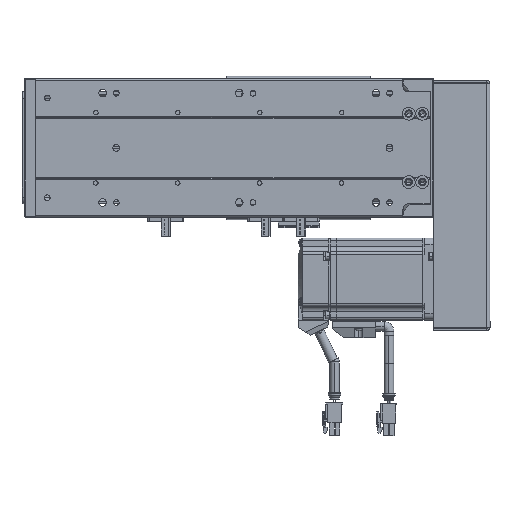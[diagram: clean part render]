
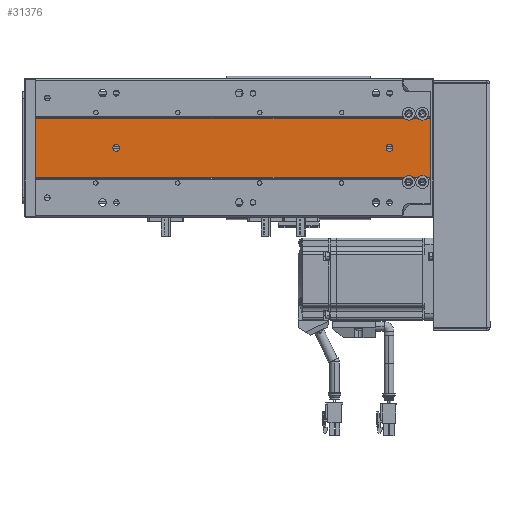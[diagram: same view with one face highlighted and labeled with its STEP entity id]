
A CAD part, front view. The second image highlights one B-rep face of the part: STEP entity #31376.
In plain terms, the highlighted planar face has unit normal (0, -1, 0).
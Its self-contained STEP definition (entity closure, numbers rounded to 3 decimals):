
#676 = ORIENTED_EDGE ( 'NONE', *, *, #48247, .T. ) ;
#679 = ORIENTED_EDGE ( 'NONE', *, *, #48213, .T. ) ;
#684 = ORIENTED_EDGE ( 'NONE', *, *, #55558, .F. ) ;
#687 = ORIENTED_EDGE ( 'NONE', *, *, #55420, .T. ) ;
#691 = ORIENTED_EDGE ( 'NONE', *, *, #54120, .T. ) ;
#694 = ORIENTED_EDGE ( 'NONE', *, *, #55501, .T. ) ;
#705 = ORIENTED_EDGE ( 'NONE', *, *, #48360, .F. ) ;
#718 = ORIENTED_EDGE ( 'NONE', *, *, #79365, .F. ) ;
#725 = ORIENTED_EDGE ( 'NONE', *, *, #55607, .T. ) ;
#737 = ORIENTED_EDGE ( 'NONE', *, *, #54182, .F. ) ;
#743 = ORIENTED_EDGE ( 'NONE', *, *, #55433, .F. ) ;
#754 = ORIENTED_EDGE ( 'NONE', *, *, #79475, .F. ) ;
#768 = ORIENTED_EDGE ( 'NONE', *, *, #79392, .T. ) ;
#775 = ORIENTED_EDGE ( 'NONE', *, *, #55618, .T. ) ;
#782 = ORIENTED_EDGE ( 'NONE', *, *, #55788, .F. ) ;
#794 = ORIENTED_EDGE ( 'NONE', *, *, #48353, .F. ) ;
#1397 = EDGE_LOOP ( 'NONE', ( #782, #794 ) ) ;
#1513 = EDGE_LOOP ( 'NONE', ( #718, #679, #684, #737, #775, #687, #691, #694, #768, #725, #754, #676 ) ) ;
#1595 = EDGE_LOOP ( 'NONE', ( #743, #705 ) ) ;
#7631 = VERTEX_POINT ( 'NONE', #51241 ) ;
#16993 = CARTESIAN_POINT ( 'NONE',  ( 137.903, 89.548, 59. ) ) ;
#17019 = CARTESIAN_POINT ( 'NONE',  ( 142.903, 89.548, 59. ) ) ;
#17048 = CARTESIAN_POINT ( 'NONE',  ( 142.903, 89.548, 259. ) ) ;
#17109 = CARTESIAN_POINT ( 'NONE',  ( 137.903, 89.548, 259. ) ) ;
#19805 = VERTEX_POINT ( 'NONE', #76918 ) ;
#19808 = VERTEX_POINT ( 'NONE', #76912 ) ;
#19810 = VERTEX_POINT ( 'NONE', #76911 ) ;
#19816 = VERTEX_POINT ( 'NONE', #76873 ) ;
#19825 = VERTEX_POINT ( 'NONE', #76915 ) ;
#19831 = VERTEX_POINT ( 'NONE', #76875 ) ;
#19850 = VERTEX_POINT ( 'NONE', #76863 ) ;
#29589 = CARTESIAN_POINT ( 'NONE',  ( 115.403, 89.548, 283. ) ) ;
#31376 = ADVANCED_FACE ( 'NONE', ( #45125, #45040, #45017 ), #31931, .F. ) ;
#31914 = CARTESIAN_POINT ( 'NONE',  ( 161.989, 89.548, 289. ) ) ;
#31928 = DIRECTION ( 'NONE',  ( 0., 1., 0. ) ) ;
#31931 = PLANE ( 'NONE',  #94050 ) ;
#31948 = DIRECTION ( 'NONE',  ( -1., 0., 0. ) ) ;
#33391 = DIRECTION ( 'NONE',  ( 0., 1., 0. ) ) ;
#33392 = DIRECTION ( 'NONE',  ( -1., 0., 0. ) ) ;
#35568 = DIRECTION ( 'NONE',  ( 0., -1., 0. ) ) ;
#35575 = CARTESIAN_POINT ( 'NONE',  ( 140.403, 89.548, 59. ) ) ;
#35597 = DIRECTION ( 'NONE',  ( 1., 0., 0. ) ) ;
#35619 = DIRECTION ( 'NONE',  ( 0., 1., 0. ) ) ;
#35628 = CARTESIAN_POINT ( 'NONE',  ( 115.403, 89.548, 273. ) ) ;
#35637 = DIRECTION ( 'NONE',  ( -1., 0., 0. ) ) ;
#35661 = CARTESIAN_POINT ( 'NONE',  ( 161.989, 89.548, 289. ) ) ;
#35668 = DIRECTION ( 'NONE',  ( 0., 0., -1. ) ) ;
#35686 = CARTESIAN_POINT ( 'NONE',  ( 118.817, 89.548, 289. ) ) ;
#35694 = DIRECTION ( 'NONE',  ( 1., 0., 0. ) ) ;
#35712 = CARTESIAN_POINT ( 'NONE',  ( 161.989, 89.548, 0. ) ) ;
#35722 = DIRECTION ( 'NONE',  ( 0., 0., -1. ) ) ;
#35854 = CARTESIAN_POINT ( 'NONE',  ( 140.403, 89.548, 259. ) ) ;
#35858 = DIRECTION ( 'NONE',  ( 0., -1., 0. ) ) ;
#35933 = DIRECTION ( 'NONE',  ( 1., 0., 0. ) ) ;
#36907 = CARTESIAN_POINT ( 'NONE',  ( 161.989, 89.548, 269.698 ) ) ;
#36913 = CARTESIAN_POINT ( 'NONE',  ( 161.989, 89.548, 279.698 ) ) ;
#36918 = CARTESIAN_POINT ( 'NONE',  ( 161.989, 89.548, 286.302 ) ) ;
#36924 = CARTESIAN_POINT ( 'NONE',  ( 161.989, 89.548, 276.302 ) ) ;
#38616 = VECTOR ( 'NONE', #87824, 1000. ) ;
#38632 = LINE ( 'NONE', #87805, #38616 ) ;
#38797 = LINE ( 'NONE', #88075, #38844 ) ;
#38844 = VECTOR ( 'NONE', #88058, 1000. ) ;
#39011 = VECTOR ( 'NONE', #88426, 1000. ) ;
#39133 = LINE ( 'NONE', #88421, #39011 ) ;
#43327 = LINE ( 'NONE', #35686, #43353 ) ;
#43336 = VECTOR ( 'NONE', #35668, 1000. ) ;
#43349 = LINE ( 'NONE', #35712, #43371 ) ;
#43353 = VECTOR ( 'NONE', #35722, 1000. ) ;
#43371 = VECTOR ( 'NONE', #35694, 1000. ) ;
#43374 = LINE ( 'NONE', #35661, #43336 ) ;
#44112 = CIRCLE ( 'NONE', #95567, 4.75 ) ;
#44192 = CIRCLE ( 'NONE', #95615, 2.5 ) ;
#44249 = CIRCLE ( 'NONE', #95572, 4.75 ) ;
#45017 = FACE_OUTER_BOUND ( 'NONE', #1513, .T. ) ;
#45040 = FACE_BOUND ( 'NONE', #1595, .T. ) ;
#45074 = CARTESIAN_POINT ( 'NONE',  ( 118.817, 89.548, 289. ) ) ;
#45082 = DIRECTION ( 'NONE',  ( 0., 0., -1. ) ) ;
#45125 = FACE_BOUND ( 'NONE', #1397, .T. ) ;
#45170 = CARTESIAN_POINT ( 'NONE',  ( 161.989, 89.548, 289. ) ) ;
#45196 = DIRECTION ( 'NONE',  ( 1., 0., 0. ) ) ;
#48213 = EDGE_CURVE ( 'NONE', #80733, #80725, #96627, .T. ) ;
#48247 = EDGE_CURVE ( 'NONE', #80771, #80743, #96647, .T. ) ;
#48353 = EDGE_CURVE ( 'NONE', #77642, #77506, #96803, .T. ) ;
#48360 = EDGE_CURVE ( 'NONE', #77419, #77606, #96820, .T. ) ;
#51241 = CARTESIAN_POINT ( 'NONE',  ( 118.817, 89.548, 286.302 ) ) ;
#54120 = EDGE_CURVE ( 'NONE', #19805, #19850, #88293, .T. ) ;
#54182 = EDGE_CURVE ( 'NONE', #19810, #19808, #88369, .T. ) ;
#55420 = EDGE_CURVE ( 'NONE', #7631, #19805, #44112, .T. ) ;
#55433 = EDGE_CURVE ( 'NONE', #77606, #77419, #44192, .T. ) ;
#55501 = EDGE_CURVE ( 'NONE', #19850, #19816, #44249, .T. ) ;
#55558 = EDGE_CURVE ( 'NONE', #19808, #80725, #43374, .T. ) ;
#55607 = EDGE_CURVE ( 'NONE', #19825, #19831, #43349, .T. ) ;
#55618 = EDGE_CURVE ( 'NONE', #19810, #7631, #43327, .T. ) ;
#55788 = EDGE_CURVE ( 'NONE', #77506, #77642, #75642, .T. ) ;
#75642 = CIRCLE ( 'NONE', #95598, 2.5 ) ;
#76863 = CARTESIAN_POINT ( 'NONE',  ( 118.817, 89.548, 276.302 ) ) ;
#76873 = CARTESIAN_POINT ( 'NONE',  ( 118.817, 89.548, 269.698 ) ) ;
#76875 = CARTESIAN_POINT ( 'NONE',  ( 161.989, 89.548, 0. ) ) ;
#76911 = CARTESIAN_POINT ( 'NONE',  ( 118.817, 89.548, 289. ) ) ;
#76912 = CARTESIAN_POINT ( 'NONE',  ( 161.989, 89.548, 289. ) ) ;
#76915 = CARTESIAN_POINT ( 'NONE',  ( 118.817, 89.548, 0. ) ) ;
#76918 = CARTESIAN_POINT ( 'NONE',  ( 118.817, 89.548, 279.698 ) ) ;
#77419 = VERTEX_POINT ( 'NONE', #16993 ) ;
#77506 = VERTEX_POINT ( 'NONE', #17048 ) ;
#77606 = VERTEX_POINT ( 'NONE', #17019 ) ;
#77642 = VERTEX_POINT ( 'NONE', #17109 ) ;
#79365 = EDGE_CURVE ( 'NONE', #80733, #80743, #38632, .T. ) ;
#79392 = EDGE_CURVE ( 'NONE', #19816, #19825, #38797, .T. ) ;
#79475 = EDGE_CURVE ( 'NONE', #80771, #19831, #39133, .T. ) ;
#80725 = VERTEX_POINT ( 'NONE', #36918 ) ;
#80733 = VERTEX_POINT ( 'NONE', #36913 ) ;
#80743 = VERTEX_POINT ( 'NONE', #36924 ) ;
#80771 = VERTEX_POINT ( 'NONE', #36907 ) ;
#87805 = CARTESIAN_POINT ( 'NONE',  ( 161.989, 89.548, 289. ) ) ;
#87824 = DIRECTION ( 'NONE',  ( 0., 0., -1. ) ) ;
#88058 = DIRECTION ( 'NONE',  ( 0., 0., -1. ) ) ;
#88075 = CARTESIAN_POINT ( 'NONE',  ( 118.817, 89.548, 289. ) ) ;
#88283 = VECTOR ( 'NONE', #45082, 1000. ) ;
#88293 = LINE ( 'NONE', #45074, #88283 ) ;
#88317 = VECTOR ( 'NONE', #45196, 1000. ) ;
#88369 = LINE ( 'NONE', #45170, #88317 ) ;
#88421 = CARTESIAN_POINT ( 'NONE',  ( 161.989, 89.548, 289. ) ) ;
#88426 = DIRECTION ( 'NONE',  ( 0., 0., -1. ) ) ;
#90875 = CARTESIAN_POINT ( 'NONE',  ( 140.403, 89.548, 259. ) ) ;
#90877 = DIRECTION ( 'NONE',  ( 0., -1., 0. ) ) ;
#90896 = DIRECTION ( 'NONE',  ( 0., -1., 0. ) ) ;
#90900 = DIRECTION ( 'NONE',  ( 1., 0., 0. ) ) ;
#90925 = DIRECTION ( 'NONE',  ( 1., 0., 0. ) ) ;
#90927 = CARTESIAN_POINT ( 'NONE',  ( 140.403, 89.548, 59. ) ) ;
#94050 = AXIS2_PLACEMENT_3D ( 'NONE', #31914, #31928, #31948 ) ;
#95092 = AXIS2_PLACEMENT_3D ( 'NONE', #96208, #96197, #96187 ) ;
#95097 = AXIS2_PLACEMENT_3D ( 'NONE', #96290, #96296, #96267 ) ;
#95159 = AXIS2_PLACEMENT_3D ( 'NONE', #90927, #90896, #90900 ) ;
#95167 = AXIS2_PLACEMENT_3D ( 'NONE', #90875, #90877, #90925 ) ;
#95567 = AXIS2_PLACEMENT_3D ( 'NONE', #29589, #33391, #33392 ) ;
#95572 = AXIS2_PLACEMENT_3D ( 'NONE', #35628, #35619, #35637 ) ;
#95598 = AXIS2_PLACEMENT_3D ( 'NONE', #35854, #35858, #35933 ) ;
#95615 = AXIS2_PLACEMENT_3D ( 'NONE', #35575, #35568, #35597 ) ;
#96187 = DIRECTION ( 'NONE',  ( -1., 0., 0. ) ) ;
#96197 = DIRECTION ( 'NONE',  ( 0., 1., 0. ) ) ;
#96208 = CARTESIAN_POINT ( 'NONE',  ( 165.403, 89.548, 283. ) ) ;
#96267 = DIRECTION ( 'NONE',  ( -1., 0., 0. ) ) ;
#96290 = CARTESIAN_POINT ( 'NONE',  ( 165.403, 89.548, 273. ) ) ;
#96296 = DIRECTION ( 'NONE',  ( 0., 1., 0. ) ) ;
#96627 = CIRCLE ( 'NONE', #95092, 4.75 ) ;
#96647 = CIRCLE ( 'NONE', #95097, 4.75 ) ;
#96803 = CIRCLE ( 'NONE', #95167, 2.5 ) ;
#96820 = CIRCLE ( 'NONE', #95159, 2.5 ) ;
